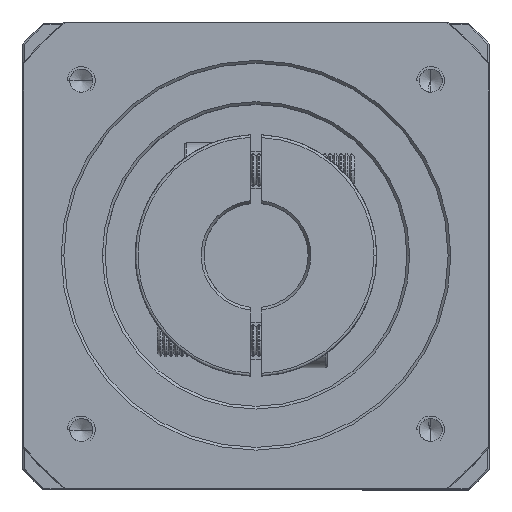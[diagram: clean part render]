
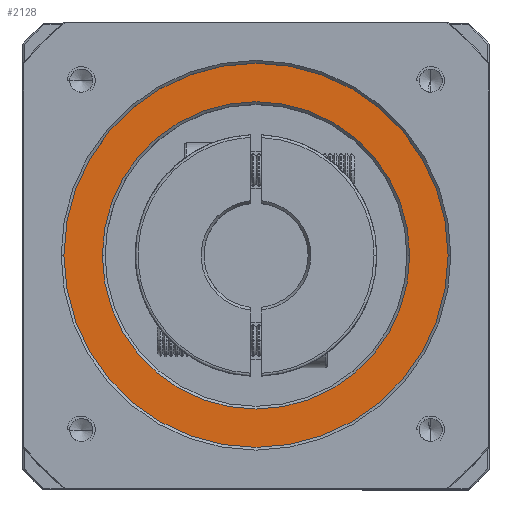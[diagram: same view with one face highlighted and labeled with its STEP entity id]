
A CAD part, top view. The second image highlights one B-rep face of the part: STEP entity #2128.
In plain terms, the highlighted planar face has unit normal (0, 0, 1).
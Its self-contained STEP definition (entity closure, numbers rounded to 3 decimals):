
#271 = DIRECTION ( 'NONE',  ( 0., 0., 1. ) ) ;
#752 = VERTEX_POINT ( 'NONE', #74825 ) ;
#2128 = ADVANCED_FACE ( 'NONE', ( #125144, #17801 ), #57082, .T. ) ;
#4439 = DIRECTION ( 'NONE',  ( 1., 0., 0. ) ) ;
#7169 = CARTESIAN_POINT ( 'NONE',  ( -52.737, 49.441, 19.814 ) ) ;
#9380 = VERTEX_POINT ( 'NONE', #80064 ) ;
#11043 = CARTESIAN_POINT ( 'NONE',  ( -52.737, 49.441, 19.814 ) ) ;
#16870 = EDGE_CURVE ( 'NONE', #9380, #752, #25312, .T. ) ;
#17151 = EDGE_CURVE ( 'NONE', #27815, #103401, #26654, .T. ) ;
#17801 = FACE_BOUND ( 'NONE', #34504, .T. ) ;
#21574 = ORIENTED_EDGE ( 'NONE', *, *, #26275, .T. ) ;
#25312 = CIRCLE ( 'NONE', #114844, 35. ) ;
#26275 = EDGE_CURVE ( 'NONE', #103401, #27815, #89488, .T. ) ;
#26654 = CIRCLE ( 'NONE', #29887, 28. ) ;
#27815 = VERTEX_POINT ( 'NONE', #114581 ) ;
#28524 = ORIENTED_EDGE ( 'NONE', *, *, #17151, .T. ) ;
#29887 = AXIS2_PLACEMENT_3D ( 'NONE', #119157, #59544, #61274 ) ;
#31171 = ORIENTED_EDGE ( 'NONE', *, *, #85846, .T. ) ;
#34504 = EDGE_LOOP ( 'NONE', ( #28524, #21574 ) ) ;
#35105 = AXIS2_PLACEMENT_3D ( 'NONE', #7169, #96763, #75948 ) ;
#50620 = EDGE_LOOP ( 'NONE', ( #31171, #96229 ) ) ;
#57082 = PLANE ( 'NONE',  #86118 ) ;
#59544 = DIRECTION ( 'NONE',  ( 0., 0., -1. ) ) ;
#61274 = DIRECTION ( 'NONE',  ( 1., 0., 0. ) ) ;
#62294 = DIRECTION ( 'NONE',  ( 0., 0., 1. ) ) ;
#74825 = CARTESIAN_POINT ( 'NONE',  ( -17.737, 49.441, 19.814 ) ) ;
#75608 = CARTESIAN_POINT ( 'NONE',  ( -52.737, 49.441, 19.814 ) ) ;
#75948 = DIRECTION ( 'NONE',  ( 1., 0., 0. ) ) ;
#80064 = CARTESIAN_POINT ( 'NONE',  ( -87.737, 49.441, 19.814 ) ) ;
#85846 = EDGE_CURVE ( 'NONE', #752, #9380, #109009, .T. ) ;
#86118 = AXIS2_PLACEMENT_3D ( 'NONE', #11043, #271, #110175 ) ;
#89488 = CIRCLE ( 'NONE', #99303, 28. ) ;
#91957 = DIRECTION ( 'NONE',  ( 1., 0., 0. ) ) ;
#96229 = ORIENTED_EDGE ( 'NONE', *, *, #16870, .T. ) ;
#96763 = DIRECTION ( 'NONE',  ( 0., 0., 1. ) ) ;
#99303 = AXIS2_PLACEMENT_3D ( 'NONE', #75608, #121497, #4439 ) ;
#103401 = VERTEX_POINT ( 'NONE', #117431 ) ;
#109009 = CIRCLE ( 'NONE', #35105, 35. ) ;
#110175 = DIRECTION ( 'NONE',  ( 1., 0., 0. ) ) ;
#112366 = CARTESIAN_POINT ( 'NONE',  ( -52.737, 49.441, 19.814 ) ) ;
#114581 = CARTESIAN_POINT ( 'NONE',  ( -24.737, 49.441, 19.814 ) ) ;
#114844 = AXIS2_PLACEMENT_3D ( 'NONE', #112366, #62294, #91957 ) ;
#117431 = CARTESIAN_POINT ( 'NONE',  ( -80.737, 49.441, 19.814 ) ) ;
#119157 = CARTESIAN_POINT ( 'NONE',  ( -52.737, 49.441, 19.814 ) ) ;
#121497 = DIRECTION ( 'NONE',  ( 0., 0., -1. ) ) ;
#125144 = FACE_OUTER_BOUND ( 'NONE', #50620, .T. ) ;
